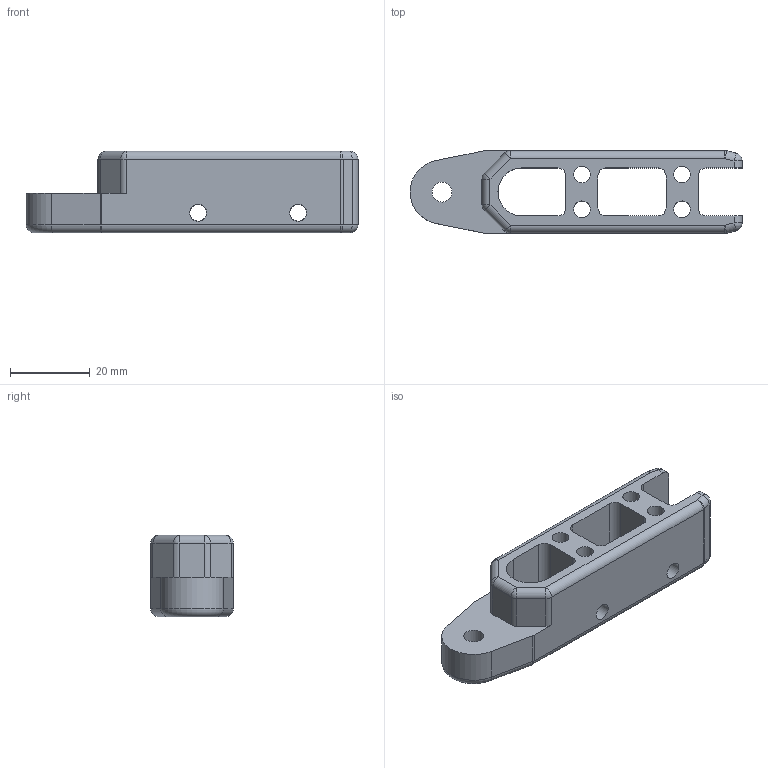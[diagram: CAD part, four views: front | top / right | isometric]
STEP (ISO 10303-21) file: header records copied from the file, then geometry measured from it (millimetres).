
FILE_DESCRIPTION (( 'STEP AP214' ), '1' );
FILE_NAME ('N15605-INF.step', '2024-12-03T16:25:38', ( '' ), ( '' ), 'SwSTEP 2.0', 'SolidWorks 2023', '' );
FILE_SCHEMA (( 'AUTOMOTIVE_DESIGN' ));
Length unit declared in the file: millimetre
Products named in the file (1): N15605-INF
Bounding box: 83 x 20.7 x 20.4 mm (x, y, z)
Volume: 17195 mm3; surface area: 9389.4 mm2
Topology: 1 solids, 1 shells, 83 faces, 231 edges, 134 vertices
Faces by surface type: cylinder 44, plane 24, sphere 14, torus 1
Full cylindrical faces by diameter (mm): 4.2 x6, 5 x1
Entity records: 2998 total; most frequent: CARTESIAN_POINT 942, DIRECTION 449, ORIENTED_EDGE 392, EDGE_CURVE 196, AXIS2_PLACEMENT_3D 173, VERTEX_POINT 122, EDGE_LOOP 116, LINE 103
